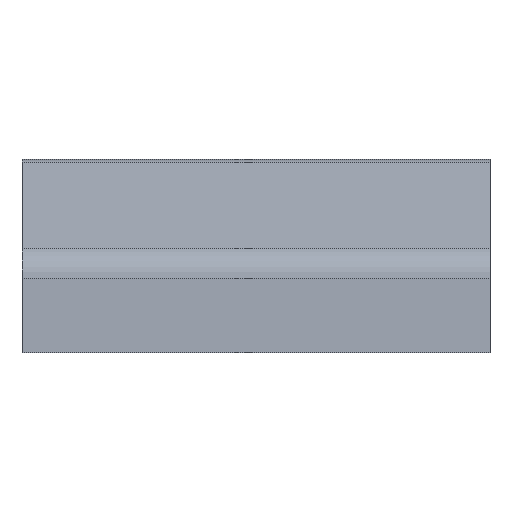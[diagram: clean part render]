
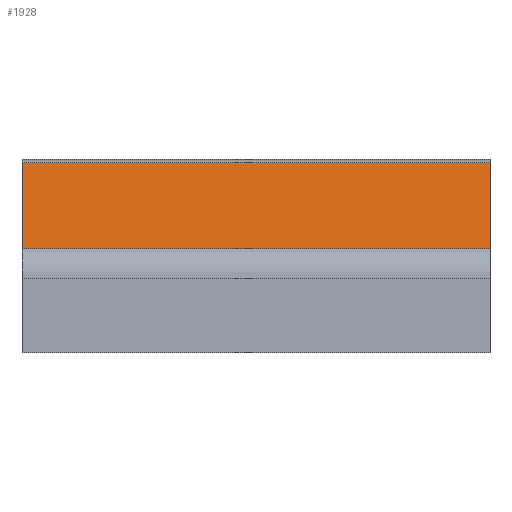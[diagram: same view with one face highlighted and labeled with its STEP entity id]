
A CAD part, front view. The second image highlights one B-rep face of the part: STEP entity #1928.
In plain terms, the highlighted planar face has unit normal (0, -0.469, 0.883).
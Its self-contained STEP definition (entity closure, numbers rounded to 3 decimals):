
#11 = DIRECTION ( 'NONE',  ( 0., 0.883, 0.469 ) ) ;
#246 = DIRECTION ( 'NONE',  ( 0., -0.469, 0.883 ) ) ;
#310 = EDGE_CURVE ( 'NONE', #3055, #2534, #1178, .T. ) ;
#312 = CARTESIAN_POINT ( 'NONE',  ( -10., -7.489, 8.875 ) ) ;
#562 = CARTESIAN_POINT ( 'NONE',  ( 30., -7.489, 8.875 ) ) ;
#714 = EDGE_CURVE ( 'NONE', #3055, #1364, #2869, .T. ) ;
#795 = CARTESIAN_POINT ( 'NONE',  ( -10.25, 6.356, 16.237 ) ) ;
#923 = CARTESIAN_POINT ( 'NONE',  ( -10.25, -7.489, 8.875 ) ) ;
#1044 = ORIENTED_EDGE ( 'NONE', *, *, #310, .F. ) ;
#1111 = FACE_OUTER_BOUND ( 'NONE', #1708, .T. ) ;
#1178 = LINE ( 'NONE', #312, #2144 ) ;
#1269 = VECTOR ( 'NONE', #2483, 1000. ) ;
#1364 = VERTEX_POINT ( 'NONE', #562 ) ;
#1430 = VECTOR ( 'NONE', #2058, 1000. ) ;
#1522 = CARTESIAN_POINT ( 'NONE',  ( -10., -7.489, 8.875 ) ) ;
#1679 = PLANE ( 'NONE',  #3466 ) ;
#1681 = DIRECTION ( 'NONE',  ( 1., 0., 0. ) ) ;
#1708 = EDGE_LOOP ( 'NONE', ( #2537, #1044, #3436, #1856 ) ) ;
#1856 = ORIENTED_EDGE ( 'NONE', *, *, #3341, .F. ) ;
#1928 = ADVANCED_FACE ( 'NONE', ( #1111 ), #1679, .T. ) ;
#2058 = DIRECTION ( 'NONE',  ( 1., 0., 0. ) ) ;
#2144 = VECTOR ( 'NONE', #11, 1000. ) ;
#2178 = CARTESIAN_POINT ( 'NONE',  ( 30., 6.356, 16.237 ) ) ;
#2483 = DIRECTION ( 'NONE',  ( 0., -0.883, -0.469 ) ) ;
#2534 = VERTEX_POINT ( 'NONE', #3283 ) ;
#2537 = ORIENTED_EDGE ( 'NONE', *, *, #3483, .F. ) ;
#2585 = VERTEX_POINT ( 'NONE', #3508 ) ;
#2591 = CARTESIAN_POINT ( 'NONE',  ( -10.25, 6.356, 16.237 ) ) ;
#2869 = LINE ( 'NONE', #923, #1430 ) ;
#2873 = LINE ( 'NONE', #2591, #3117 ) ;
#3055 = VERTEX_POINT ( 'NONE', #1522 ) ;
#3117 = VECTOR ( 'NONE', #1681, 1000. ) ;
#3283 = CARTESIAN_POINT ( 'NONE',  ( -10., 6.356, 16.237 ) ) ;
#3341 = EDGE_CURVE ( 'NONE', #2585, #1364, #3365, .T. ) ;
#3365 = LINE ( 'NONE', #2178, #1269 ) ;
#3396 = DIRECTION ( 'NONE',  ( 0., -0.883, -0.469 ) ) ;
#3436 = ORIENTED_EDGE ( 'NONE', *, *, #714, .T. ) ;
#3466 = AXIS2_PLACEMENT_3D ( 'NONE', #795, #246, #3396 ) ;
#3483 = EDGE_CURVE ( 'NONE', #2534, #2585, #2873, .T. ) ;
#3508 = CARTESIAN_POINT ( 'NONE',  ( 30., 6.356, 16.237 ) ) ;
